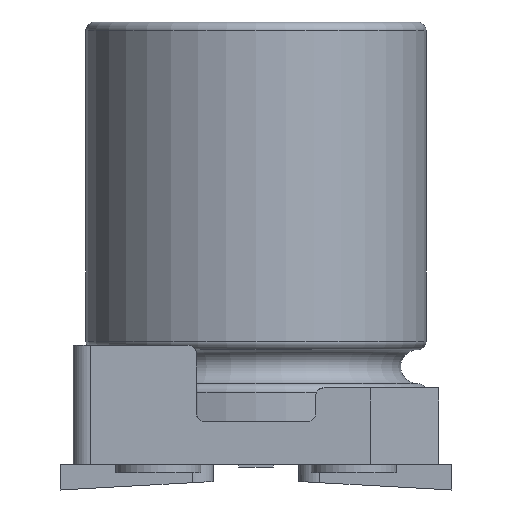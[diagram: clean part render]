
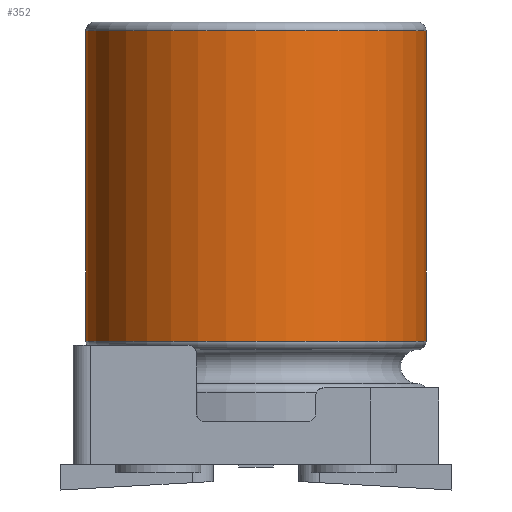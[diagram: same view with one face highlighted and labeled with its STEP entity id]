
A CAD part, front view. The second image highlights one B-rep face of the part: STEP entity #352.
In plain terms, the highlighted cylindrical face has radius 2 mm (diameter 4 mm), a full revolution.
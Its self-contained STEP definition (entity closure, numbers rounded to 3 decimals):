
#204=CYLINDRICAL_SURFACE('',#1591,2.);
#352=ADVANCED_FACE('',(#436,#437),#204,.T.);
#436=FACE_BOUND('',#512,.T.);
#437=FACE_BOUND('',#513,.T.);
#512=EDGE_LOOP('',(#873));
#513=EDGE_LOOP('',(#874));
#580=CIRCLE('',#1589,2.);
#581=CIRCLE('',#1590,2.);
#873=ORIENTED_EDGE('',*,*,#1226,.T.);
#874=ORIENTED_EDGE('',*,*,#1227,.T.);
#1055=VERTEX_POINT('',#2445);
#1056=VERTEX_POINT('',#2447);
#1226=EDGE_CURVE('',#1055,#1055,#580,.T.);
#1227=EDGE_CURVE('',#1056,#1056,#581,.T.);
#1589=AXIS2_PLACEMENT_3D('',#2444,#1904,#1905);
#1590=AXIS2_PLACEMENT_3D('',#2446,#1906,#1907);
#1591=AXIS2_PLACEMENT_3D('',#2448,#1908,#1909);
#1904=DIRECTION('',(0.,0.,1.));
#1905=DIRECTION('',(1.,0.,0.));
#1906=DIRECTION('',(0.,0.,-1.));
#1907=DIRECTION('',(-1.,0.,0.));
#1908=DIRECTION('',(0.,0.,-1.));
#1909=DIRECTION('',(-1.,0.,0.));
#2444=CARTESIAN_POINT('',(0.,0.,1.45));
#2445=CARTESIAN_POINT('',(2.,0.,1.45));
#2446=CARTESIAN_POINT('',(0.,0.,5.1));
#2447=CARTESIAN_POINT('',(-2.,0.,5.1));
#2448=CARTESIAN_POINT('',(0.,0.,0.));
